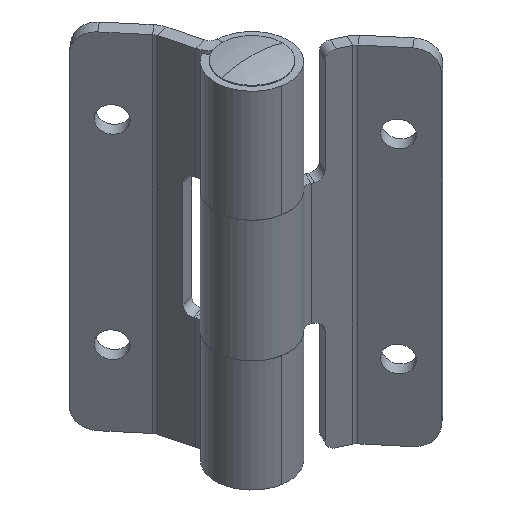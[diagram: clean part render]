
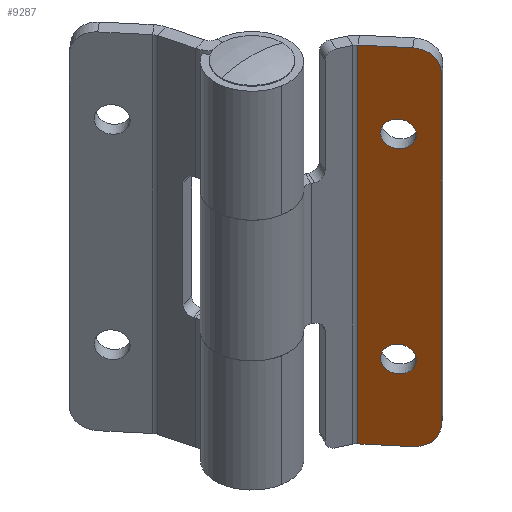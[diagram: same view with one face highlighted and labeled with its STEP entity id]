
A CAD part, isometric view. The second image highlights one B-rep face of the part: STEP entity #9287.
In plain terms, the highlighted planar face has unit normal (-0.766, -0.643, 0).
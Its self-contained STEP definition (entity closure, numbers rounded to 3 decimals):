
#57 = ORIENTED_EDGE ( 'NONE', *, *, #2361, .T. ) ;
#116 = EDGE_CURVE ( 'NONE', #9250, #3479, #2105, .T. ) ;
#848 = DIRECTION ( 'NONE',  ( -0.766, -0.643, 0. ) ) ;
#1112 = CIRCLE ( 'NONE', #1999, 3.15 ) ;
#1117 = DIRECTION ( 'NONE',  ( 0.766, 0.643, 0. ) ) ;
#1570 = EDGE_CURVE ( 'NONE', #10729, #3873, #3296, .T. ) ;
#1596 = EDGE_CURVE ( 'NONE', #9141, #2267, #5002, .T. ) ;
#1791 = ORIENTED_EDGE ( 'NONE', *, *, #5948, .T. ) ;
#1940 = AXIS2_PLACEMENT_3D ( 'NONE', #2594, #8532, #3441 ) ;
#1999 = AXIS2_PLACEMENT_3D ( 'NONE', #9168, #4050, #10018 ) ;
#2105 = CIRCLE ( 'NONE', #10862, 5. ) ;
#2169 = VECTOR ( 'NONE', #2756, 1000. ) ;
#2196 = DIRECTION ( 'NONE',  ( 0.643, -0.766, 0. ) ) ;
#2267 = VERTEX_POINT ( 'NONE', #7195 ) ;
#2361 = EDGE_CURVE ( 'NONE', #7673, #5411, #10872, .T. ) ;
#2449 = EDGE_LOOP ( 'NONE', ( #1791, #9482 ) ) ;
#2454 = LINE ( 'NONE', #4440, #2169 ) ;
#2474 = FACE_OUTER_BOUND ( 'NONE', #7024, .T. ) ;
#2594 = CARTESIAN_POINT ( 'NONE',  ( 21.049, -14.973, -24. ) ) ;
#2612 = VECTOR ( 'NONE', #5801, 1000. ) ;
#2754 = FACE_BOUND ( 'NONE', #2449, .T. ) ;
#2756 = DIRECTION ( 'NONE',  ( 0., 0., -1. ) ) ;
#2809 = CARTESIAN_POINT ( 'NONE',  ( 15.793, -8.709, 42.5 ) ) ;
#3274 = ORIENTED_EDGE ( 'NONE', *, *, #9204, .F. ) ;
#3296 = CIRCLE ( 'NONE', #9106, 3.15 ) ;
#3308 = DIRECTION ( 'NONE',  ( -0.766, -0.643, 0. ) ) ;
#3441 = DIRECTION ( 'NONE',  ( -0.643, 0.766, 0. ) ) ;
#3479 = VERTEX_POINT ( 'NONE', #5563 ) ;
#3684 = CARTESIAN_POINT ( 'NONE',  ( 19.024, -12.56, -24. ) ) ;
#3693 = DIRECTION ( 'NONE',  ( -0.766, -0.643, 0. ) ) ;
#3873 = VERTEX_POINT ( 'NONE', #4673 ) ;
#3892 = CARTESIAN_POINT ( 'NONE',  ( 16.506, -9.559, 42.5 ) ) ;
#4050 = DIRECTION ( 'NONE',  ( 0.766, 0.643, 0. ) ) ;
#4060 = AXIS2_PLACEMENT_3D ( 'NONE', #2809, #1117, #7036 ) ;
#4203 = DIRECTION ( 'NONE',  ( -0.766, -0.643, 0. ) ) ;
#4440 = CARTESIAN_POINT ( 'NONE',  ( 25.87, -20.718, 42.5 ) ) ;
#4443 = EDGE_LOOP ( 'NONE', ( #3274, #11015 ) ) ;
#4446 = ORIENTED_EDGE ( 'NONE', *, *, #5760, .F. ) ;
#4673 = CARTESIAN_POINT ( 'NONE',  ( 19.024, -12.56, 24. ) ) ;
#4805 = VECTOR ( 'NONE', #2196, 1000. ) ;
#4847 = LINE ( 'NONE', #9222, #2612 ) ;
#4940 = CIRCLE ( 'NONE', #1940, 3.15 ) ;
#5002 = CIRCLE ( 'NONE', #5907, 5. ) ;
#5006 = CARTESIAN_POINT ( 'NONE',  ( 22.656, -16.888, -42.5 ) ) ;
#5255 = ORIENTED_EDGE ( 'NONE', *, *, #1596, .T. ) ;
#5411 = VERTEX_POINT ( 'NONE', #8446 ) ;
#5498 = VERTEX_POINT ( 'NONE', #6813 ) ;
#5563 = CARTESIAN_POINT ( 'NONE',  ( 22.656, -16.888, 42.5 ) ) ;
#5760 = EDGE_CURVE ( 'NONE', #9250, #2267, #2454, .T. ) ;
#5801 = DIRECTION ( 'NONE',  ( 0.643, -0.766, 0. ) ) ;
#5907 = AXIS2_PLACEMENT_3D ( 'NONE', #8390, #3308, #9262 ) ;
#5913 = CARTESIAN_POINT ( 'NONE',  ( 21.049, -14.973, 24. ) ) ;
#5948 = EDGE_CURVE ( 'NONE', #8681, #5498, #1112, .T. ) ;
#6135 = CARTESIAN_POINT ( 'NONE',  ( 23.074, -17.386, 24. ) ) ;
#6177 = PLANE ( 'NONE',  #4060 ) ;
#6223 = CARTESIAN_POINT ( 'NONE',  ( 16.506, -9.559, 42.5 ) ) ;
#6453 = EDGE_CURVE ( 'NONE', #5498, #8681, #4940, .T. ) ;
#6738 = EDGE_CURVE ( 'NONE', #7673, #3479, #7062, .T. ) ;
#6770 = DIRECTION ( 'NONE',  ( -0.643, 0.766, 0. ) ) ;
#6813 = CARTESIAN_POINT ( 'NONE',  ( 23.074, -17.386, -24. ) ) ;
#6857 = VECTOR ( 'NONE', #8130, 1000. ) ;
#6991 = ORIENTED_EDGE ( 'NONE', *, *, #116, .T. ) ;
#7024 = EDGE_LOOP ( 'NONE', ( #4446, #6991, #10764, #57, #9985, #5255 ) ) ;
#7036 = DIRECTION ( 'NONE',  ( -0.643, 0.766, 0. ) ) ;
#7062 = LINE ( 'NONE', #10671, #4805 ) ;
#7195 = CARTESIAN_POINT ( 'NONE',  ( 25.87, -20.718, -37.5 ) ) ;
#7673 = VERTEX_POINT ( 'NONE', #6223 ) ;
#8130 = DIRECTION ( 'NONE',  ( 0., 0., -1. ) ) ;
#8390 = CARTESIAN_POINT ( 'NONE',  ( 22.656, -16.888, -37.5 ) ) ;
#8446 = CARTESIAN_POINT ( 'NONE',  ( 16.506, -9.559, -42.5 ) ) ;
#8532 = DIRECTION ( 'NONE',  ( 0.766, 0.643, 0. ) ) ;
#8681 = VERTEX_POINT ( 'NONE', #3684 ) ;
#8793 = CARTESIAN_POINT ( 'NONE',  ( 21.049, -14.973, 24. ) ) ;
#8982 = EDGE_CURVE ( 'NONE', #5411, #9141, #4847, .T. ) ;
#9106 = AXIS2_PLACEMENT_3D ( 'NONE', #8793, #3693, #9662 ) ;
#9141 = VERTEX_POINT ( 'NONE', #5006 ) ;
#9168 = CARTESIAN_POINT ( 'NONE',  ( 21.049, -14.973, -24. ) ) ;
#9204 = EDGE_CURVE ( 'NONE', #3873, #10729, #10325, .T. ) ;
#9222 = CARTESIAN_POINT ( 'NONE',  ( 15.793, -8.709, -42.5 ) ) ;
#9250 = VERTEX_POINT ( 'NONE', #10417 ) ;
#9256 = FACE_BOUND ( 'NONE', #4443, .T. ) ;
#9262 = DIRECTION ( 'NONE',  ( -0.643, 0.766, 0. ) ) ;
#9287 = ADVANCED_FACE ( 'NONE', ( #2474, #2754, #9256 ), #6177, .F. ) ;
#9323 = CARTESIAN_POINT ( 'NONE',  ( 22.656, -16.888, 37.5 ) ) ;
#9482 = ORIENTED_EDGE ( 'NONE', *, *, #6453, .T. ) ;
#9662 = DIRECTION ( 'NONE',  ( -0.643, 0.766, 0. ) ) ;
#9985 = ORIENTED_EDGE ( 'NONE', *, *, #8982, .T. ) ;
#10018 = DIRECTION ( 'NONE',  ( -0.643, 0.766, 0. ) ) ;
#10160 = DIRECTION ( 'NONE',  ( -0.643, 0.766, 0. ) ) ;
#10325 = CIRCLE ( 'NONE', #10555, 3.15 ) ;
#10417 = CARTESIAN_POINT ( 'NONE',  ( 25.87, -20.718, 37.5 ) ) ;
#10555 = AXIS2_PLACEMENT_3D ( 'NONE', #5913, #848, #6770 ) ;
#10671 = CARTESIAN_POINT ( 'NONE',  ( 15.793, -8.709, 42.5 ) ) ;
#10729 = VERTEX_POINT ( 'NONE', #6135 ) ;
#10764 = ORIENTED_EDGE ( 'NONE', *, *, #6738, .F. ) ;
#10862 = AXIS2_PLACEMENT_3D ( 'NONE', #9323, #4203, #10160 ) ;
#10872 = LINE ( 'NONE', #3892, #6857 ) ;
#11015 = ORIENTED_EDGE ( 'NONE', *, *, #1570, .F. ) ;
